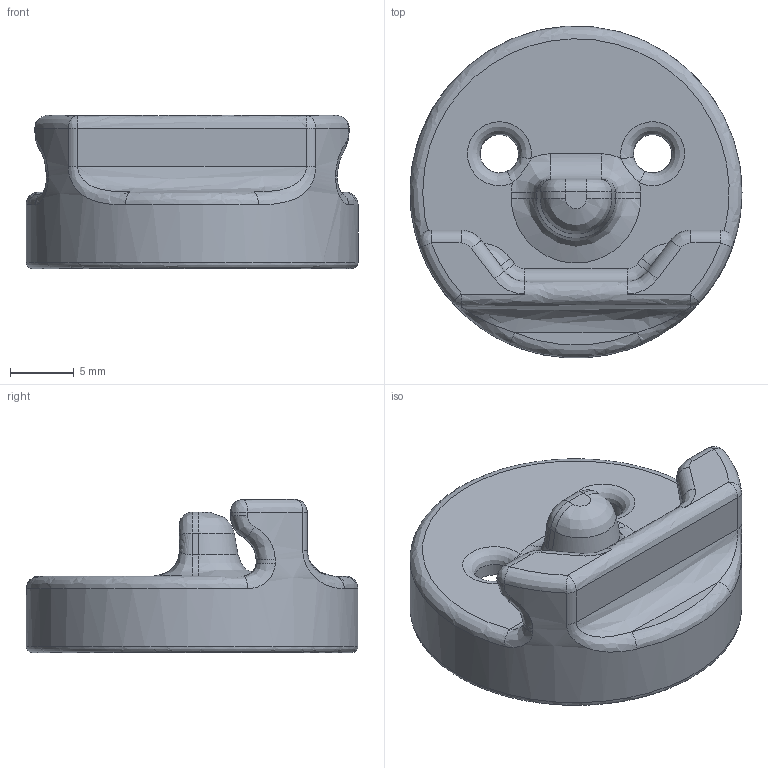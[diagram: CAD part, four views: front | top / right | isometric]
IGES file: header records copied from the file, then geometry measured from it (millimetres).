
Global section: file name: code-holder; native system: unknown; preprocessor: unknown; author: unknown; organization: unknown; date: 20170111.231837; units: millimetre
Bounding box: 26 x 25.97 x 12 mm (x, y, z)
Volume: 2446.1 mm3; surface area: 2125.4 mm2
Topology: 1 solids, 1 shells, 103 faces, 234 edges, 131 vertices
Faces by surface type: bspline 103
